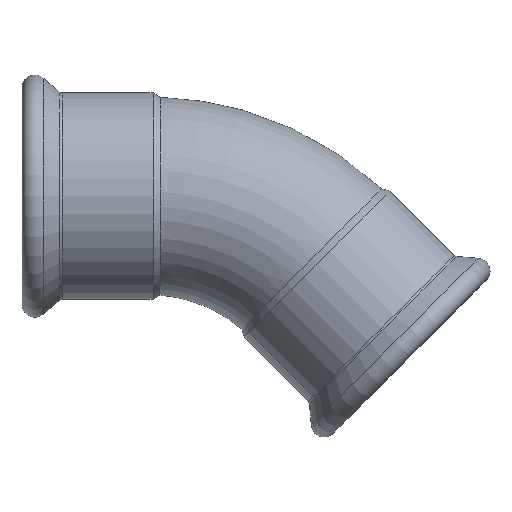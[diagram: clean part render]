
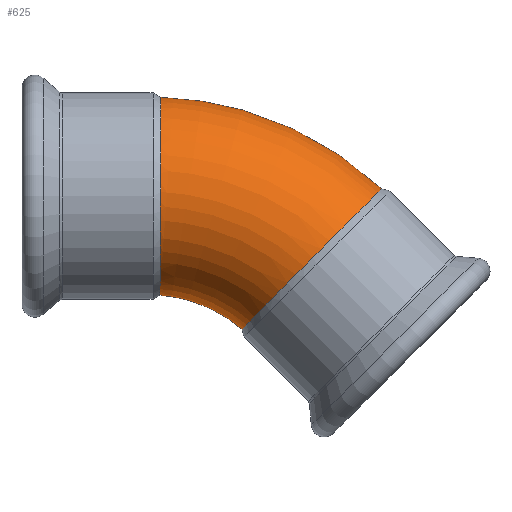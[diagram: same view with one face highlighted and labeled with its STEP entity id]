
A CAD part, top view. The second image highlights one B-rep face of the part: STEP entity #625.
In plain terms, the highlighted toroidal (fillet/blend) face has major radius 130 mm and minor radius 54 mm.
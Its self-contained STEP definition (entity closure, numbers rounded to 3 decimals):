
#532=CARTESIAN_POINT('',(0.0,0.0,0.0));
#533=DIRECTION('',(0.0,0.0,1.0));
#534=DIRECTION('',(0.924,-0.383,0.0));
#535=AXIS2_PLACEMENT_3D('',#532,#533,#534);
#536=TOROIDAL_SURFACE('',#535,130.0,54.0);
#537=CARTESIAN_POINT('',(5.602,183.915,0.));
#538=VERTEX_POINT('',#537);
#539=CARTESIAN_POINT('',(5.602,183.915,0.));
#540=CARTESIAN_POINT('',(5.602,183.915,-7.005));
#541=CARTESIAN_POINT('',(5.599,182.551,-13.944));
#542=CARTESIAN_POINT('',(5.588,177.286,-26.823));
#543=CARTESIAN_POINT('',(5.58,173.468,-32.657));
#544=CARTESIAN_POINT('',(5.557,163.915,-42.493));
#545=CARTESIAN_POINT('',(5.543,158.296,-46.434));
#546=CARTESIAN_POINT('',(5.508,145.979,-51.983));
#547=CARTESIAN_POINT('',(5.488,139.405,-53.576));
#548=CARTESIAN_POINT('',(5.44,126.043,-54.275));
#549=CARTESIAN_POINT('',(5.414,119.37,-53.386));
#550=CARTESIAN_POINT('',(5.355,106.556,-49.183));
#551=CARTESIAN_POINT('',(5.323,100.542,-45.857));
#552=CARTESIAN_POINT('',(5.258,89.811,-36.934));
#553=CARTESIAN_POINT('',(5.226,85.277,-31.323));
#554=CARTESIAN_POINT('',(5.18,79.235,-19.768));
#555=CARTESIAN_POINT('',(5.164,77.378,-14.133));
#556=CARTESIAN_POINT('',(5.152,75.927,-4.832));
#557=CARTESIAN_POINT('',(5.15,75.726,-1.309));
#558=CARTESIAN_POINT('',(5.153,76.035,6.229));
#559=CARTESIAN_POINT('',(5.158,76.65,10.22));
#560=CARTESIAN_POINT('',(5.183,79.58,21.028));
#561=CARTESIAN_POINT('',(5.208,82.818,27.508));
#562=CARTESIAN_POINT('',(5.268,91.439,38.569));
#563=CARTESIAN_POINT('',(5.301,96.64,43.123));
#564=CARTESIAN_POINT('',(5.366,108.725,50.2));
#565=CARTESIAN_POINT('',(5.397,115.556,52.556));
#566=CARTESIAN_POINT('',(5.454,129.726,54.469));
#567=CARTESIAN_POINT('',(5.479,136.924,54.014));
#568=CARTESIAN_POINT('',(5.522,150.731,50.329));
#569=CARTESIAN_POINT('',(5.54,157.202,47.136));
#570=CARTESIAN_POINT('',(5.568,168.528,38.413));
#571=CARTESIAN_POINT('',(5.579,173.27,32.97));
#572=CARTESIAN_POINT('',(5.592,179.114,22.733));
#573=CARTESIAN_POINT('',(5.595,180.884,18.425));
#574=CARTESIAN_POINT('',(5.6,183.299,9.396));
#575=CARTESIAN_POINT('',(5.602,183.915,4.708));
#576=CARTESIAN_POINT('',(5.602,183.915,0.));
#577=B_SPLINE_CURVE_WITH_KNOTS('',3,(#539,#540,#541,#542,#543,#544,#545,#546,#547,#548,#549,#550,#551,#552,#553,#554,#555,#556,#557,#558,#559,#560,#561,#562,#563,#564,#565,#566,#567,#568,#569,#570,#571,#572,#573,#574,#575,#576),.UNSPECIFIED.,.T.,.U.,(4,2,2,2,2,2,2,2,2,2,2,2,2,2,2,2,2,2,4),(0.0,2.102,4.174,6.215,8.227,10.229,12.272,14.416,16.184,17.24,18.448,20.599,22.655,24.801,26.944,29.088,31.233,32.624,34.036),.UNSPECIFIED.);
#578=EDGE_CURVE('',#538,#538,#577,.T.);
#579=ORIENTED_EDGE('',*,*,#578,.F.);
#580=EDGE_LOOP('',(#579));
#581=FACE_OUTER_BOUND('',#580,.T.);
#582=CARTESIAN_POINT('',(126.086,134.008,0.0));
#583=VERTEX_POINT('',#582);
#584=CARTESIAN_POINT('',(126.086,134.008,0.0));
#585=CARTESIAN_POINT('',(126.086,134.008,7.028));
#586=CARTESIAN_POINT('',(125.118,133.036,13.989));
#587=CARTESIAN_POINT('',(121.353,129.255,26.993));
#588=CARTESIAN_POINT('',(118.593,126.483,32.911));
#589=CARTESIAN_POINT('',(111.63,119.487,42.916));
#590=CARTESIAN_POINT('',(107.494,115.33,46.908));
#591=CARTESIAN_POINT('',(98.38,106.164,52.422));
#592=CARTESIAN_POINT('',(93.489,101.242,53.892));
#593=CARTESIAN_POINT('',(83.589,91.269,54.096));
#594=CARTESIAN_POINT('',(78.674,86.314,52.828));
#595=CARTESIAN_POINT('',(69.462,77.013,47.69));
#596=CARTESIAN_POINT('',(65.254,72.758,43.866));
#597=CARTESIAN_POINT('',(58.099,65.512,34.129));
#598=CARTESIAN_POINT('',(55.225,62.595,28.303));
#599=CARTESIAN_POINT('',(51.214,58.521,15.406));
#600=CARTESIAN_POINT('',(50.116,57.403,8.459));
#601=CARTESIAN_POINT('',(49.859,57.142,-5.602));
#602=CARTESIAN_POINT('',(50.69,57.988,-12.58));
#603=CARTESIAN_POINT('',(54.178,61.532,-25.681));
#604=CARTESIAN_POINT('',(56.799,64.193,-31.68));
#605=CARTESIAN_POINT('',(63.523,71.007,-41.947));
#606=CARTESIAN_POINT('',(67.571,75.102,-46.107));
#607=CARTESIAN_POINT('',(76.58,84.201,-51.998));
#608=CARTESIAN_POINT('',(81.458,89.121,-53.665));
#609=CARTESIAN_POINT('',(91.392,99.131,-54.244));
#610=CARTESIAN_POINT('',(96.353,104.124,-53.15));
#611=CARTESIAN_POINT('',(105.695,113.521,-48.324));
#612=CARTESIAN_POINT('',(109.986,117.835,-44.641));
#613=CARTESIAN_POINT('',(117.327,125.212,-35.152));
#614=CARTESIAN_POINT('',(120.307,128.205,-29.44));
#615=CARTESIAN_POINT('',(123.63,131.542,-19.482));
#616=CARTESIAN_POINT('',(124.546,132.461,-15.709));
#617=CARTESIAN_POINT('',(125.776,133.697,-7.945));
#618=CARTESIAN_POINT('',(126.086,134.008,-3.979));
#619=CARTESIAN_POINT('',(126.086,134.008,0.0));
#620=B_SPLINE_CURVE_WITH_KNOTS('',3,(#584,#585,#586,#587,#588,#589,#590,#591,#592,#593,#594,#595,#596,#597,#598,#599,#600,#601,#602,#603,#604,#605,#606,#607,#608,#609,#610,#611,#612,#613,#614,#615,#616,#617,#618,#619),.UNSPECIFIED.,.T.,.U.,(4,2,2,2,2,2,2,2,2,2,2,2,2,2,2,2,2,4),(0.0,2.109,4.217,6.325,8.433,10.541,12.651,14.767,16.883,18.987,21.087,23.198,25.316,27.432,29.546,31.657,32.851,34.044),.UNSPECIFIED.);
#621=EDGE_CURVE('',#583,#583,#620,.T.);
#622=ORIENTED_EDGE('',*,*,#621,.F.);
#623=EDGE_LOOP('',(#622));
#624=FACE_BOUND('',#623,.T.);
#625=ADVANCED_FACE('',(#581,#624),#536,.T.);
